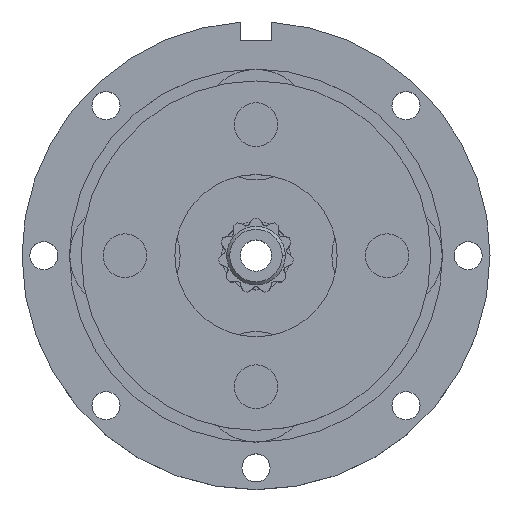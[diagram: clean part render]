
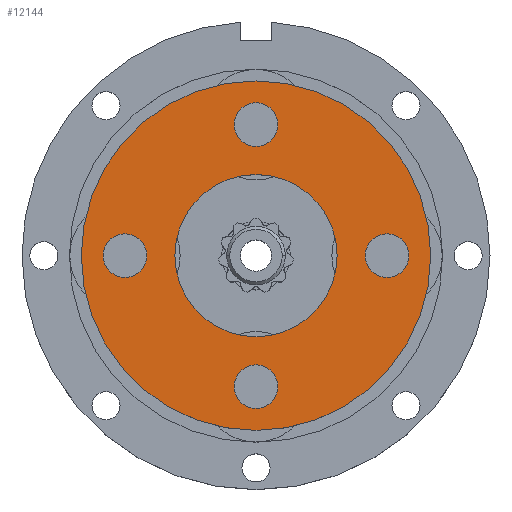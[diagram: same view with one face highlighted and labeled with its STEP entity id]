
A CAD part, top view. The second image highlights one B-rep face of the part: STEP entity #12144.
In plain terms, the highlighted planar face has unit normal (0, 0, 1).
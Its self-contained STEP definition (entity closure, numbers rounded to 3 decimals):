
#131 = AXIS2_PLACEMENT_3D ( 'NONE', #6416, #12089, #8604 ) ;
#389 = CARTESIAN_POINT ( 'NONE',  ( -3.5, 21., 8.35 ) ) ;
#718 = DIRECTION ( 'NONE',  ( 0., 0., 1. ) ) ;
#824 = VERTEX_POINT ( 'NONE', #389 ) ;
#969 = EDGE_CURVE ( 'NONE', #5683, #13803, #12337, .T. ) ;
#981 = ORIENTED_EDGE ( 'NONE', *, *, #3306, .F. ) ;
#1069 = DIRECTION ( 'NONE',  ( 1., 0., 0. ) ) ;
#1340 = AXIS2_PLACEMENT_3D ( 'NONE', #6256, #8516, #1781 ) ;
#1404 = EDGE_LOOP ( 'NONE', ( #5091, #10848 ) ) ;
#1539 = CARTESIAN_POINT ( 'NONE',  ( -21., 3.5, 8.35 ) ) ;
#1620 = DIRECTION ( 'NONE',  ( 0., 1., 0. ) ) ;
#1707 = DIRECTION ( 'NONE',  ( 1., 0., 0. ) ) ;
#1724 = AXIS2_PLACEMENT_3D ( 'NONE', #9600, #2654, #14231 ) ;
#1781 = DIRECTION ( 'NONE',  ( 1., 0., 0. ) ) ;
#1824 = DIRECTION ( 'NONE',  ( 0., 1., 0. ) ) ;
#2192 = CARTESIAN_POINT ( 'NONE',  ( 0., 0., 8.35 ) ) ;
#2236 = AXIS2_PLACEMENT_3D ( 'NONE', #14758, #5308, #8617 ) ;
#2298 = CIRCLE ( 'NONE', #14622, 3.5 ) ;
#2484 = ORIENTED_EDGE ( 'NONE', *, *, #8013, .F. ) ;
#2528 = AXIS2_PLACEMENT_3D ( 'NONE', #2192, #13696, #3328 ) ;
#2654 = DIRECTION ( 'NONE',  ( 0., 0., 1. ) ) ;
#2850 = FACE_BOUND ( 'NONE', #4816, .T. ) ;
#2906 = VERTEX_POINT ( 'NONE', #10134 ) ;
#2937 = VERTEX_POINT ( 'NONE', #14766 ) ;
#3031 = EDGE_CURVE ( 'NONE', #2906, #824, #2298, .T. ) ;
#3277 = ORIENTED_EDGE ( 'NONE', *, *, #14850, .T. ) ;
#3280 = CIRCLE ( 'NONE', #7374, 3.5 ) ;
#3295 = CARTESIAN_POINT ( 'NONE',  ( 21., 3.5, 8.35 ) ) ;
#3306 = EDGE_CURVE ( 'NONE', #5617, #14043, #11489, .T. ) ;
#3328 = DIRECTION ( 'NONE',  ( 1., 0., 0. ) ) ;
#3345 = EDGE_LOOP ( 'NONE', ( #7628, #3483 ) ) ;
#3483 = ORIENTED_EDGE ( 'NONE', *, *, #12217, .F. ) ;
#3577 = EDGE_CURVE ( 'NONE', #13803, #5683, #3280, .T. ) ;
#3638 = VERTEX_POINT ( 'NONE', #10558 ) ;
#3639 = DIRECTION ( 'NONE',  ( 1., 0., 0. ) ) ;
#3911 = PLANE ( 'NONE',  #1340 ) ;
#4002 = CARTESIAN_POINT ( 'NONE',  ( -3.5, -21., 8.35 ) ) ;
#4092 = VERTEX_POINT ( 'NONE', #10753 ) ;
#4346 = DIRECTION ( 'NONE',  ( 0., 0., 1. ) ) ;
#4687 = CARTESIAN_POINT ( 'NONE',  ( 0., 21., 8.35 ) ) ;
#4813 = ORIENTED_EDGE ( 'NONE', *, *, #969, .F. ) ;
#4816 = EDGE_LOOP ( 'NONE', ( #4813, #7691 ) ) ;
#5091 = ORIENTED_EDGE ( 'NONE', *, *, #9423, .F. ) ;
#5156 = DIRECTION ( 'NONE',  ( 0., 0., 1. ) ) ;
#5308 = DIRECTION ( 'NONE',  ( 0., 0., 1. ) ) ;
#5386 = CARTESIAN_POINT ( 'NONE',  ( -21., 0., 8.35 ) ) ;
#5554 = FACE_BOUND ( 'NONE', #12939, .T. ) ;
#5617 = VERTEX_POINT ( 'NONE', #12429 ) ;
#5620 = CIRCLE ( 'NONE', #2236, 3.5 ) ;
#5628 = DIRECTION ( 'NONE',  ( -1., 0., 0. ) ) ;
#5683 = VERTEX_POINT ( 'NONE', #8334 ) ;
#5759 = CARTESIAN_POINT ( 'NONE',  ( 0., 0., 8.35 ) ) ;
#5782 = AXIS2_PLACEMENT_3D ( 'NONE', #7530, #12141, #6251 ) ;
#6042 = CIRCLE ( 'NONE', #13289, 13. ) ;
#6251 = DIRECTION ( 'NONE',  ( 1., 0., 0. ) ) ;
#6256 = CARTESIAN_POINT ( 'NONE',  ( 0., 0., 8.35 ) ) ;
#6386 = ORIENTED_EDGE ( 'NONE', *, *, #11949, .T. ) ;
#6413 = AXIS2_PLACEMENT_3D ( 'NONE', #11383, #13208, #1707 ) ;
#6416 = CARTESIAN_POINT ( 'NONE',  ( 21., 0., 8.35 ) ) ;
#6575 = VERTEX_POINT ( 'NONE', #12553 ) ;
#6608 = CARTESIAN_POINT ( 'NONE',  ( 0., -21., 8.35 ) ) ;
#7030 = CIRCLE ( 'NONE', #11387, 3.5 ) ;
#7361 = CIRCLE ( 'NONE', #6413, 13. ) ;
#7364 = EDGE_LOOP ( 'NONE', ( #11090, #2484 ) ) ;
#7374 = AXIS2_PLACEMENT_3D ( 'NONE', #8293, #11852, #1620 ) ;
#7530 = CARTESIAN_POINT ( 'NONE',  ( 0., 0., 8.35 ) ) ;
#7628 = ORIENTED_EDGE ( 'NONE', *, *, #8661, .F. ) ;
#7691 = ORIENTED_EDGE ( 'NONE', *, *, #3577, .F. ) ;
#8013 = EDGE_CURVE ( 'NONE', #4092, #12334, #6042, .T. ) ;
#8238 = VERTEX_POINT ( 'NONE', #4002 ) ;
#8261 = CIRCLE ( 'NONE', #1724, 3.5 ) ;
#8293 = CARTESIAN_POINT ( 'NONE',  ( -21., 0., 8.35 ) ) ;
#8333 = CIRCLE ( 'NONE', #2528, 28. ) ;
#8334 = CARTESIAN_POINT ( 'NONE',  ( -21., -3.5, 8.35 ) ) ;
#8516 = DIRECTION ( 'NONE',  ( 0., 0., 1. ) ) ;
#8604 = DIRECTION ( 'NONE',  ( 0., -1., 0. ) ) ;
#8617 = DIRECTION ( 'NONE',  ( 0., -1., 0. ) ) ;
#8661 = EDGE_CURVE ( 'NONE', #6575, #8238, #7030, .T. ) ;
#9423 = EDGE_CURVE ( 'NONE', #824, #2906, #8261, .T. ) ;
#9485 = EDGE_CURVE ( 'NONE', #14043, #5617, #5620, .T. ) ;
#9600 = CARTESIAN_POINT ( 'NONE',  ( 0., 21., 8.35 ) ) ;
#9799 = CARTESIAN_POINT ( 'NONE',  ( 0., -21., 8.35 ) ) ;
#10134 = CARTESIAN_POINT ( 'NONE',  ( 3.5, 21., 8.35 ) ) ;
#10163 = FACE_BOUND ( 'NONE', #7364, .T. ) ;
#10558 = CARTESIAN_POINT ( 'NONE',  ( 28., 0., 8.35 ) ) ;
#10753 = CARTESIAN_POINT ( 'NONE',  ( 13., 0., 8.35 ) ) ;
#10848 = ORIENTED_EDGE ( 'NONE', *, *, #3031, .F. ) ;
#10992 = CIRCLE ( 'NONE', #11234, 3.5 ) ;
#11090 = ORIENTED_EDGE ( 'NONE', *, *, #12184, .F. ) ;
#11234 = AXIS2_PLACEMENT_3D ( 'NONE', #9799, #4346, #14433 ) ;
#11383 = CARTESIAN_POINT ( 'NONE',  ( 0., 0., 8.35 ) ) ;
#11387 = AXIS2_PLACEMENT_3D ( 'NONE', #6608, #718, #5628 ) ;
#11489 = CIRCLE ( 'NONE', #131, 3.5 ) ;
#11589 = DIRECTION ( 'NONE',  ( 0., 0., 1. ) ) ;
#11663 = EDGE_LOOP ( 'NONE', ( #6386, #3277 ) ) ;
#11852 = DIRECTION ( 'NONE',  ( 0., 0., 1. ) ) ;
#11949 = EDGE_CURVE ( 'NONE', #2937, #3638, #8333, .T. ) ;
#12089 = DIRECTION ( 'NONE',  ( 0., 0., 1. ) ) ;
#12141 = DIRECTION ( 'NONE',  ( 0., 0., 1. ) ) ;
#12144 = ADVANCED_FACE ( 'NONE', ( #2850, #14796, #5554, #14516, #13132, #10163 ), #3911, .T. ) ;
#12184 = EDGE_CURVE ( 'NONE', #12334, #4092, #7361, .T. ) ;
#12217 = EDGE_CURVE ( 'NONE', #8238, #6575, #10992, .T. ) ;
#12334 = VERTEX_POINT ( 'NONE', #13961 ) ;
#12337 = CIRCLE ( 'NONE', #14270, 3.5 ) ;
#12429 = CARTESIAN_POINT ( 'NONE',  ( 21., -3.5, 8.35 ) ) ;
#12553 = CARTESIAN_POINT ( 'NONE',  ( 3.5, -21., 8.35 ) ) ;
#12939 = EDGE_LOOP ( 'NONE', ( #13723, #981 ) ) ;
#13132 = FACE_OUTER_BOUND ( 'NONE', #11663, .T. ) ;
#13208 = DIRECTION ( 'NONE',  ( 0., 0., 1. ) ) ;
#13289 = AXIS2_PLACEMENT_3D ( 'NONE', #5759, #11589, #1069 ) ;
#13696 = DIRECTION ( 'NONE',  ( 0., 0., 1. ) ) ;
#13723 = ORIENTED_EDGE ( 'NONE', *, *, #9485, .F. ) ;
#13803 = VERTEX_POINT ( 'NONE', #1539 ) ;
#13961 = CARTESIAN_POINT ( 'NONE',  ( -13., 0., 8.35 ) ) ;
#14002 = DIRECTION ( 'NONE',  ( 0., 0., 1. ) ) ;
#14043 = VERTEX_POINT ( 'NONE', #3295 ) ;
#14231 = DIRECTION ( 'NONE',  ( 1., 0., 0. ) ) ;
#14270 = AXIS2_PLACEMENT_3D ( 'NONE', #5386, #5156, #1824 ) ;
#14433 = DIRECTION ( 'NONE',  ( -1., 0., 0. ) ) ;
#14516 = FACE_BOUND ( 'NONE', #1404, .T. ) ;
#14622 = AXIS2_PLACEMENT_3D ( 'NONE', #4687, #14002, #3639 ) ;
#14758 = CARTESIAN_POINT ( 'NONE',  ( 21., 0., 8.35 ) ) ;
#14766 = CARTESIAN_POINT ( 'NONE',  ( -28., 0., 8.35 ) ) ;
#14796 = FACE_BOUND ( 'NONE', #3345, .T. ) ;
#14850 = EDGE_CURVE ( 'NONE', #3638, #2937, #14938, .T. ) ;
#14938 = CIRCLE ( 'NONE', #5782, 28. ) ;
